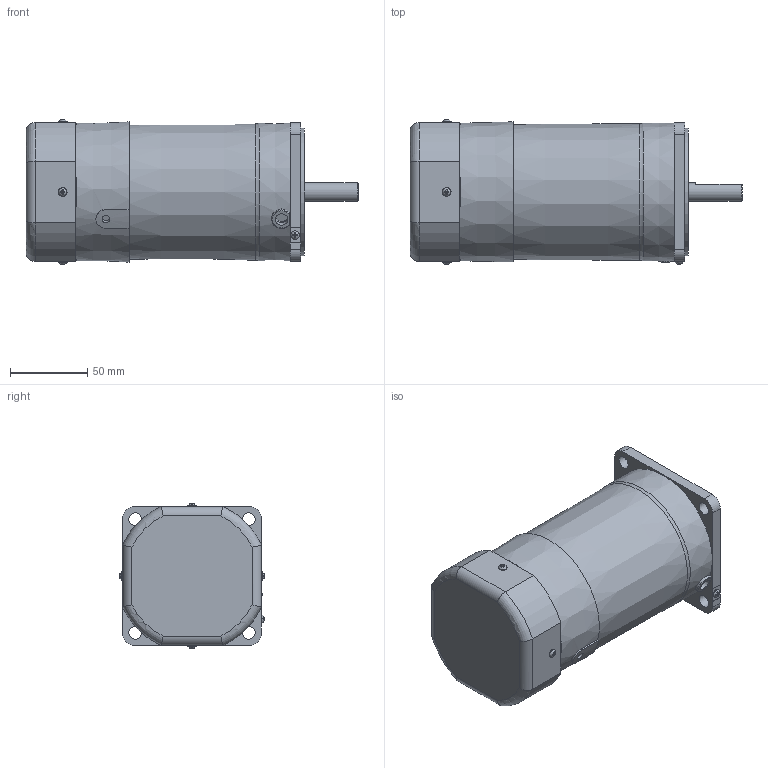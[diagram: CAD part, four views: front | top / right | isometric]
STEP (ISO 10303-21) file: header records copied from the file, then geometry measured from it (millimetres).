
FILE_DESCRIPTION(/* description */ (''),/* implementation_level */ '2;1');
FILE_NAME(/* name */ 'E:\도면작업\2016\0704) 미주향 SG 도면\3D MOTOR\ELECTROMAGNETIC BRAKE\SG9R(I)90D_-E.stp',/* time_stamp */ '2017-03-21T15:20:07+09:00',/* author */ ('jy-jung'),/* organization */ (''),/* preprocessor_version */ 'ST-DEVELOPER v15.6',/* originating_system */ 'Autodesk Inventor 2015',/* authorisation */ '');
FILE_SCHEMA (('AUTOMOTIVE_DESIGN { 1 0 10303 214 3 1 1 }'));
Length unit declared in the file: millimetre
Products named in the file (1): 부품23
Bounding box: 215.3 x 93.89 x 93.89 mm (x, y, z)
Volume: 1141233.3 mm3; surface area: 74697.3 mm2
Topology: 1 solids, 6 shells, 231 faces, 593 edges, 391 vertices
Faces by surface type: plane 148, cylinder 55, torus 14, cone 8, bspline 5, sphere 1
Full cylindrical faces by diameter (mm): 3 x4, 3.5 x4, 5 x1, 5.6 x5, 8 x1, 8.5 x4, 10 x1, 12 x1, 40 x1, 83 x1, 86 x1
Entity records: 7540 total; most frequent: CARTESIAN_POINT 1924, ORIENTED_EDGE 1080, DIRECTION 1044, EDGE_CURVE 540, VERTEX_POINT 379, AXIS2_PLACEMENT_3D 370, EDGE_LOOP 307, LINE 304
